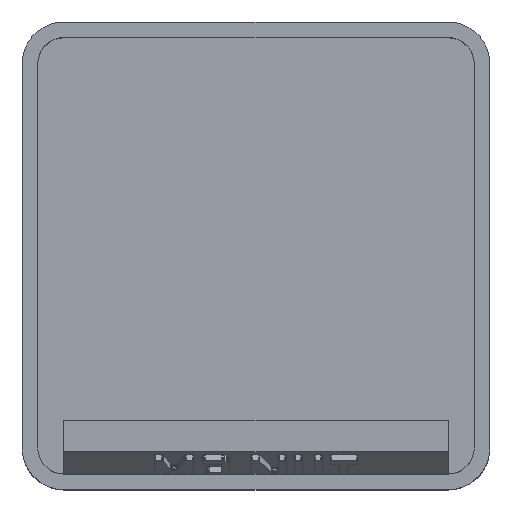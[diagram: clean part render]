
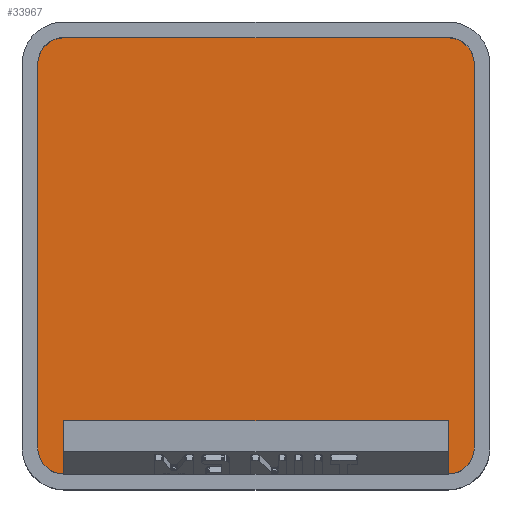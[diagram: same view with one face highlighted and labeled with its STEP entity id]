
A CAD part, top view. The second image highlights one B-rep face of the part: STEP entity #33967.
In plain terms, the highlighted planar face has unit normal (0, 0, 1).
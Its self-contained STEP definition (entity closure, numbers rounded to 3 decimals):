
#912 = PLANE('',#913);
#913 = AXIS2_PLACEMENT_3D('',#914,#915,#916);
#914 = CARTESIAN_POINT('',(-19.6,0.,21.));
#915 = DIRECTION('',(-1.,0.,0.));
#916 = DIRECTION('',(-0.,-1.,-0.));
#940 = CYLINDRICAL_SURFACE('',#941,2.35);
#941 = AXIS2_PLACEMENT_3D('',#942,#943,#944);
#942 = CARTESIAN_POINT('',(-17.25,17.25,5.95));
#943 = DIRECTION('',(-0.,-0.,1.));
#944 = DIRECTION('',(-1.,0.,0.));
#967 = PLANE('',#968);
#968 = AXIS2_PLACEMENT_3D('',#969,#970,#971);
#969 = CARTESIAN_POINT('',(0.,19.6,21.));
#970 = DIRECTION('',(0.,1.,0.));
#971 = DIRECTION('',(-1.,0.,0.));
#995 = CYLINDRICAL_SURFACE('',#996,2.35);
#996 = AXIS2_PLACEMENT_3D('',#997,#998,#999);
#997 = CARTESIAN_POINT('',(17.25,17.25,5.95));
#998 = DIRECTION('',(-0.,-0.,1.));
#999 = DIRECTION('',(-1.,0.,0.));
#1022 = PLANE('',#1023);
#1023 = AXIS2_PLACEMENT_3D('',#1024,#1025,#1026);
#1024 = CARTESIAN_POINT('',(19.6,0.,21.));
#1025 = DIRECTION('',(1.,0.,0.));
#1026 = DIRECTION('',(-0.,1.,0.));
#1050 = CYLINDRICAL_SURFACE('',#1051,2.35);
#1051 = AXIS2_PLACEMENT_3D('',#1052,#1053,#1054);
#1052 = CARTESIAN_POINT('',(17.25,-17.25,5.95));
#1053 = DIRECTION('',(-0.,-0.,1.));
#1054 = DIRECTION('',(-1.,0.,0.));
#1103 = CYLINDRICAL_SURFACE('',#1104,2.35);
#1104 = AXIS2_PLACEMENT_3D('',#1105,#1106,#1107);
#1105 = CARTESIAN_POINT('',(-17.25,-17.25,5.95));
#1106 = DIRECTION('',(-0.,-0.,1.));
#1107 = DIRECTION('',(-1.,0.,0.));
#12743 = EDGE_CURVE('',#12744,#12746,#12748,.T.);
#12744 = VERTEX_POINT('',#12745);
#12745 = CARTESIAN_POINT('',(-19.6,-17.25,5.95));
#12746 = VERTEX_POINT('',#12747);
#12747 = CARTESIAN_POINT('',(-19.6,17.25,5.95));
#12748 = SURFACE_CURVE('',#12749,(#12753,#12760),.PCURVE_S1.);
#12749 = LINE('',#12750,#12751);
#12750 = CARTESIAN_POINT('',(-19.6,0.,5.95));
#12751 = VECTOR('',#12752,1.);
#12752 = DIRECTION('',(0.,1.,0.));
#12753 = PCURVE('',#912,#12754);
#12754 = DEFINITIONAL_REPRESENTATION('',(#12755),#12759);
#12755 = LINE('',#12756,#12757);
#12756 = CARTESIAN_POINT('',(0.,-15.05));
#12757 = VECTOR('',#12758,1.);
#12758 = DIRECTION('',(-1.,0.));
#12759 = ( GEOMETRIC_REPRESENTATION_CONTEXT(2) 
PARAMETRIC_REPRESENTATION_CONTEXT() REPRESENTATION_CONTEXT('2D SPACE',''
  ) );
#12760 = PCURVE('',#12761,#12766);
#12761 = PLANE('',#12762);
#12762 = AXIS2_PLACEMENT_3D('',#12763,#12764,#12765);
#12763 = CARTESIAN_POINT('',(-17.25,-17.25,5.95));
#12764 = DIRECTION('',(0.,0.,-1.));
#12765 = DIRECTION('',(-1.,0.,0.));
#12766 = DEFINITIONAL_REPRESENTATION('',(#12767),#12771);
#12767 = LINE('',#12768,#12769);
#12768 = CARTESIAN_POINT('',(2.35,17.25));
#12769 = VECTOR('',#12770,1.);
#12770 = DIRECTION('',(0.,1.));
#12771 = ( GEOMETRIC_REPRESENTATION_CONTEXT(2) 
PARAMETRIC_REPRESENTATION_CONTEXT() REPRESENTATION_CONTEXT('2D SPACE',''
  ) );
#12818 = EDGE_CURVE('',#12819,#12744,#12821,.T.);
#12819 = VERTEX_POINT('',#12820);
#12820 = CARTESIAN_POINT('',(-17.25,-19.6,5.95));
#12821 = SURFACE_CURVE('',#12822,(#12827,#12834),.PCURVE_S1.);
#12822 = CIRCLE('',#12823,2.35);
#12823 = AXIS2_PLACEMENT_3D('',#12824,#12825,#12826);
#12824 = CARTESIAN_POINT('',(-17.25,-17.25,5.95));
#12825 = DIRECTION('',(0.,0.,-1.));
#12826 = DIRECTION('',(-1.,0.,0.));
#12827 = PCURVE('',#1103,#12828);
#12828 = DEFINITIONAL_REPRESENTATION('',(#12829),#12833);
#12829 = LINE('',#12830,#12831);
#12830 = CARTESIAN_POINT('',(6.283,0.));
#12831 = VECTOR('',#12832,1.);
#12832 = DIRECTION('',(-1.,0.));
#12833 = ( GEOMETRIC_REPRESENTATION_CONTEXT(2) 
PARAMETRIC_REPRESENTATION_CONTEXT() REPRESENTATION_CONTEXT('2D SPACE',''
  ) );
#12834 = PCURVE('',#12761,#12835);
#12835 = DEFINITIONAL_REPRESENTATION('',(#12836),#12840);
#12836 = CIRCLE('',#12837,2.35);
#12837 = AXIS2_PLACEMENT_2D('',#12838,#12839);
#12838 = CARTESIAN_POINT('',(0.,0.));
#12839 = DIRECTION('',(1.,0.));
#12840 = ( GEOMETRIC_REPRESENTATION_CONTEXT(2) 
PARAMETRIC_REPRESENTATION_CONTEXT() REPRESENTATION_CONTEXT('2D SPACE',''
  ) );
#12858 = PLANE('',#12859);
#12859 = AXIS2_PLACEMENT_3D('',#12860,#12861,#12862);
#12860 = CARTESIAN_POINT('',(0.,-19.6,21.));
#12861 = DIRECTION('',(0.,-1.,0.));
#12862 = DIRECTION('',(1.,0.,0.));
#12945 = EDGE_CURVE('',#12946,#12948,#12950,.T.);
#12946 = VERTEX_POINT('',#12947);
#12947 = CARTESIAN_POINT('',(19.6,-17.25,5.95));
#12948 = VERTEX_POINT('',#12949);
#12949 = CARTESIAN_POINT('',(17.25,-19.6,5.95));
#12950 = SURFACE_CURVE('',#12951,(#12956,#12963),.PCURVE_S1.);
#12951 = CIRCLE('',#12952,2.35);
#12952 = AXIS2_PLACEMENT_3D('',#12953,#12954,#12955);
#12953 = CARTESIAN_POINT('',(17.25,-17.25,5.95));
#12954 = DIRECTION('',(0.,0.,-1.));
#12955 = DIRECTION('',(-1.,0.,0.));
#12956 = PCURVE('',#1050,#12957);
#12957 = DEFINITIONAL_REPRESENTATION('',(#12958),#12962);
#12958 = LINE('',#12959,#12960);
#12959 = CARTESIAN_POINT('',(6.283,0.));
#12960 = VECTOR('',#12961,1.);
#12961 = DIRECTION('',(-1.,0.));
#12962 = ( GEOMETRIC_REPRESENTATION_CONTEXT(2) 
PARAMETRIC_REPRESENTATION_CONTEXT() REPRESENTATION_CONTEXT('2D SPACE',''
  ) );
#12963 = PCURVE('',#12761,#12964);
#12964 = DEFINITIONAL_REPRESENTATION('',(#12965),#12969);
#12965 = CIRCLE('',#12966,2.35);
#12966 = AXIS2_PLACEMENT_2D('',#12967,#12968);
#12967 = CARTESIAN_POINT('',(-34.5,0.));
#12968 = DIRECTION('',(1.,0.));
#12969 = ( GEOMETRIC_REPRESENTATION_CONTEXT(2) 
PARAMETRIC_REPRESENTATION_CONTEXT() REPRESENTATION_CONTEXT('2D SPACE',''
  ) );
#13043 = EDGE_CURVE('',#12946,#13044,#13046,.T.);
#13044 = VERTEX_POINT('',#13045);
#13045 = CARTESIAN_POINT('',(19.6,17.25,5.95));
#13046 = SURFACE_CURVE('',#13047,(#13051,#13058),.PCURVE_S1.);
#13047 = LINE('',#13048,#13049);
#13048 = CARTESIAN_POINT('',(19.6,0.,5.95));
#13049 = VECTOR('',#13050,1.);
#13050 = DIRECTION('',(0.,1.,0.));
#13051 = PCURVE('',#1022,#13052);
#13052 = DEFINITIONAL_REPRESENTATION('',(#13053),#13057);
#13053 = LINE('',#13054,#13055);
#13054 = CARTESIAN_POINT('',(0.,-15.05));
#13055 = VECTOR('',#13056,1.);
#13056 = DIRECTION('',(1.,0.));
#13057 = ( GEOMETRIC_REPRESENTATION_CONTEXT(2) 
PARAMETRIC_REPRESENTATION_CONTEXT() REPRESENTATION_CONTEXT('2D SPACE',''
  ) );
#13058 = PCURVE('',#12761,#13059);
#13059 = DEFINITIONAL_REPRESENTATION('',(#13060),#13064);
#13060 = LINE('',#13061,#13062);
#13061 = CARTESIAN_POINT('',(-36.85,17.25));
#13062 = VECTOR('',#13063,1.);
#13063 = DIRECTION('',(0.,1.));
#13064 = ( GEOMETRIC_REPRESENTATION_CONTEXT(2) 
PARAMETRIC_REPRESENTATION_CONTEXT() REPRESENTATION_CONTEXT('2D SPACE',''
  ) );
#13091 = EDGE_CURVE('',#13092,#13044,#13094,.T.);
#13092 = VERTEX_POINT('',#13093);
#13093 = CARTESIAN_POINT('',(17.25,19.6,5.95));
#13094 = SURFACE_CURVE('',#13095,(#13100,#13107),.PCURVE_S1.);
#13095 = CIRCLE('',#13096,2.35);
#13096 = AXIS2_PLACEMENT_3D('',#13097,#13098,#13099);
#13097 = CARTESIAN_POINT('',(17.25,17.25,5.95));
#13098 = DIRECTION('',(0.,0.,-1.));
#13099 = DIRECTION('',(-1.,0.,0.));
#13100 = PCURVE('',#995,#13101);
#13101 = DEFINITIONAL_REPRESENTATION('',(#13102),#13106);
#13102 = LINE('',#13103,#13104);
#13103 = CARTESIAN_POINT('',(6.283,0.));
#13104 = VECTOR('',#13105,1.);
#13105 = DIRECTION('',(-1.,0.));
#13106 = ( GEOMETRIC_REPRESENTATION_CONTEXT(2) 
PARAMETRIC_REPRESENTATION_CONTEXT() REPRESENTATION_CONTEXT('2D SPACE',''
  ) );
#13107 = PCURVE('',#12761,#13108);
#13108 = DEFINITIONAL_REPRESENTATION('',(#13109),#13113);
#13109 = CIRCLE('',#13110,2.35);
#13110 = AXIS2_PLACEMENT_2D('',#13111,#13112);
#13111 = CARTESIAN_POINT('',(-34.5,34.5));
#13112 = DIRECTION('',(1.,0.));
#13113 = ( GEOMETRIC_REPRESENTATION_CONTEXT(2) 
PARAMETRIC_REPRESENTATION_CONTEXT() REPRESENTATION_CONTEXT('2D SPACE',''
  ) );
#13141 = EDGE_CURVE('',#13142,#13092,#13144,.T.);
#13142 = VERTEX_POINT('',#13143);
#13143 = CARTESIAN_POINT('',(-17.25,19.6,5.95));
#13144 = SURFACE_CURVE('',#13145,(#13149,#13156),.PCURVE_S1.);
#13145 = LINE('',#13146,#13147);
#13146 = CARTESIAN_POINT('',(0.,19.6,5.95));
#13147 = VECTOR('',#13148,1.);
#13148 = DIRECTION('',(1.,0.,0.));
#13149 = PCURVE('',#967,#13150);
#13150 = DEFINITIONAL_REPRESENTATION('',(#13151),#13155);
#13151 = LINE('',#13152,#13153);
#13152 = CARTESIAN_POINT('',(0.,-15.05));
#13153 = VECTOR('',#13154,1.);
#13154 = DIRECTION('',(-1.,0.));
#13155 = ( GEOMETRIC_REPRESENTATION_CONTEXT(2) 
PARAMETRIC_REPRESENTATION_CONTEXT() REPRESENTATION_CONTEXT('2D SPACE',''
  ) );
#13156 = PCURVE('',#12761,#13157);
#13157 = DEFINITIONAL_REPRESENTATION('',(#13158),#13162);
#13158 = LINE('',#13159,#13160);
#13159 = CARTESIAN_POINT('',(-17.25,36.85));
#13160 = VECTOR('',#13161,1.);
#13161 = DIRECTION('',(-1.,0.));
#13162 = ( GEOMETRIC_REPRESENTATION_CONTEXT(2) 
PARAMETRIC_REPRESENTATION_CONTEXT() REPRESENTATION_CONTEXT('2D SPACE',''
  ) );
#13190 = EDGE_CURVE('',#12746,#13142,#13191,.T.);
#13191 = SURFACE_CURVE('',#13192,(#13197,#13204),.PCURVE_S1.);
#13192 = CIRCLE('',#13193,2.35);
#13193 = AXIS2_PLACEMENT_3D('',#13194,#13195,#13196);
#13194 = CARTESIAN_POINT('',(-17.25,17.25,5.95));
#13195 = DIRECTION('',(0.,0.,-1.));
#13196 = DIRECTION('',(-1.,0.,0.));
#13197 = PCURVE('',#940,#13198);
#13198 = DEFINITIONAL_REPRESENTATION('',(#13199),#13203);
#13199 = LINE('',#13200,#13201);
#13200 = CARTESIAN_POINT('',(6.283,0.));
#13201 = VECTOR('',#13202,1.);
#13202 = DIRECTION('',(-1.,0.));
#13203 = ( GEOMETRIC_REPRESENTATION_CONTEXT(2) 
PARAMETRIC_REPRESENTATION_CONTEXT() REPRESENTATION_CONTEXT('2D SPACE',''
  ) );
#13204 = PCURVE('',#12761,#13205);
#13205 = DEFINITIONAL_REPRESENTATION('',(#13206),#13210);
#13206 = CIRCLE('',#13207,2.35);
#13207 = AXIS2_PLACEMENT_2D('',#13208,#13209);
#13208 = CARTESIAN_POINT('',(0.,34.5));
#13209 = DIRECTION('',(1.,0.));
#13210 = ( GEOMETRIC_REPRESENTATION_CONTEXT(2) 
PARAMETRIC_REPRESENTATION_CONTEXT() REPRESENTATION_CONTEXT('2D SPACE',''
  ) );
#33967 = ADVANCED_FACE('',(#33968),#12761,.F.);
#33968 = FACE_BOUND('',#33969,.T.);
#33969 = EDGE_LOOP('',(#33970,#33971,#33972,#33993,#33994,#33995,#33996,
    #33997));
#33970 = ORIENTED_EDGE('',*,*,#12743,.F.);
#33971 = ORIENTED_EDGE('',*,*,#12818,.F.);
#33972 = ORIENTED_EDGE('',*,*,#33973,.T.);
#33973 = EDGE_CURVE('',#12819,#12948,#33974,.T.);
#33974 = SURFACE_CURVE('',#33975,(#33979,#33986),.PCURVE_S1.);
#33975 = LINE('',#33976,#33977);
#33976 = CARTESIAN_POINT('',(0.,-19.6,5.95));
#33977 = VECTOR('',#33978,1.);
#33978 = DIRECTION('',(1.,0.,0.));
#33979 = PCURVE('',#12761,#33980);
#33980 = DEFINITIONAL_REPRESENTATION('',(#33981),#33985);
#33981 = LINE('',#33982,#33983);
#33982 = CARTESIAN_POINT('',(-17.25,-2.35));
#33983 = VECTOR('',#33984,1.);
#33984 = DIRECTION('',(-1.,0.));
#33985 = ( GEOMETRIC_REPRESENTATION_CONTEXT(2) 
PARAMETRIC_REPRESENTATION_CONTEXT() REPRESENTATION_CONTEXT('2D SPACE',''
  ) );
#33986 = PCURVE('',#12858,#33987);
#33987 = DEFINITIONAL_REPRESENTATION('',(#33988),#33992);
#33988 = LINE('',#33989,#33990);
#33989 = CARTESIAN_POINT('',(0.,-15.05));
#33990 = VECTOR('',#33991,1.);
#33991 = DIRECTION('',(1.,0.));
#33992 = ( GEOMETRIC_REPRESENTATION_CONTEXT(2) 
PARAMETRIC_REPRESENTATION_CONTEXT() REPRESENTATION_CONTEXT('2D SPACE',''
  ) );
#33993 = ORIENTED_EDGE('',*,*,#12945,.F.);
#33994 = ORIENTED_EDGE('',*,*,#13043,.T.);
#33995 = ORIENTED_EDGE('',*,*,#13091,.F.);
#33996 = ORIENTED_EDGE('',*,*,#13141,.F.);
#33997 = ORIENTED_EDGE('',*,*,#13190,.F.);
